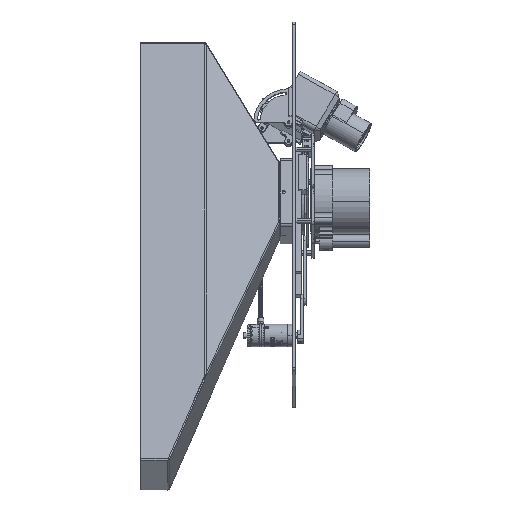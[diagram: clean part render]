
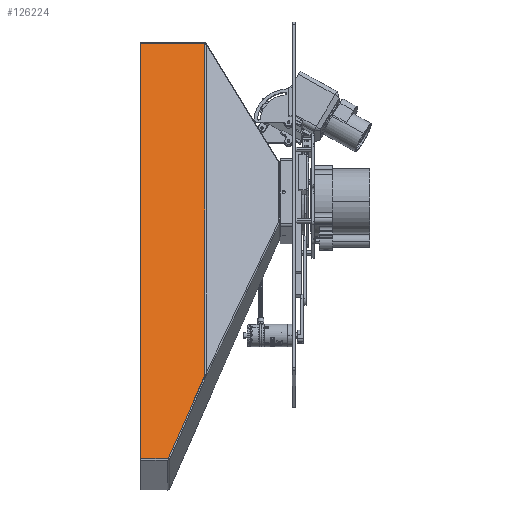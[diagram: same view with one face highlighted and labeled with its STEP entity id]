
A CAD part, left-side view. The second image highlights one B-rep face of the part: STEP entity #126224.
In plain terms, the highlighted planar face has unit normal (-0.964, 0, 0.267) as drawn and (0, 0, 1) by its records, which use the part's own axes.
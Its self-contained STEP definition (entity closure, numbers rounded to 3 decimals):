
#124347=DIRECTION('',(-0.92,0.391,0.));
#124348=VECTOR('',#124347,96.027);
#124349=CARTESIAN_POINT('',(89.298,82.068,1.5));
#124350=LINE('',#124349,#124348);
#124351=DIRECTION('',(0.,1.,0.));
#124352=VECTOR('',#124351,29.007);
#124353=CARTESIAN_POINT('',(0.,120.993,1.5));
#124354=LINE('',#124353,#124352);
#124355=DIRECTION('',(1.,0.,0.));
#124356=VECTOR('',#124355,372.767);
#124357=CARTESIAN_POINT('',(92.222,80.466,1.5));
#124358=LINE('',#124357,#124356);
#124383=DIRECTION('',(-0.033,-0.999,0.));
#124384=VECTOR('',#124383,0.337);
#124385=CARTESIAN_POINT('',(465.,80.803,1.5));
#124386=LINE('',#124385,#124384);
#124395=DIRECTION('',(0.,1.,0.));
#124396=VECTOR('',#124395,69.197);
#124397=CARTESIAN_POINT('',(465.,80.803,1.5));
#124398=LINE('',#124397,#124396);
#124407=DIRECTION('',(1.,0.,0.));
#124408=VECTOR('',#124407,465.);
#124409=CARTESIAN_POINT('',(0.,150.,1.5));
#124410=LINE('',#124409,#124408);
#124423=CARTESIAN_POINT('',(1.5,120.993,1.5));
#124424=DIRECTION('',(0.,0.,1.));
#124425=DIRECTION('',(-1.,0.,0.));
#124426=AXIS2_PLACEMENT_3D('',#124423,#124424,#124425);
#124441=CARTESIAN_POINT('',(82.738,66.627,1.5));
#124442=DIRECTION('',(0.,0.,1.));
#124443=DIRECTION('',(0.565,0.825,0.));
#124444=AXIS2_PLACEMENT_3D('',#124441,#124442,#124443);
#125878=CARTESIAN_POINT('',(89.298,82.068,1.5));
#125879=CARTESIAN_POINT('',(0.914,119.612,1.5));
#125880=VERTEX_POINT('',#125878);
#125881=VERTEX_POINT('',#125879);
#125882=CARTESIAN_POINT('',(92.222,80.466,1.5));
#125883=VERTEX_POINT('',#125882);
#125884=CARTESIAN_POINT('',(0.,120.993,1.5));
#125885=VERTEX_POINT('',#125884);
#125888=CARTESIAN_POINT('',(0.,150.,1.5));
#125889=VERTEX_POINT('',#125888);
#125914=CARTESIAN_POINT('',(465.,80.803,1.5));
#125915=CARTESIAN_POINT('',(465.,150.,1.5));
#125916=VERTEX_POINT('',#125914);
#125917=VERTEX_POINT('',#125915);
#125918=CARTESIAN_POINT('',(464.989,80.466,1.5));
#125919=VERTEX_POINT('',#125918);
#126201=CARTESIAN_POINT('',(0.,0.,1.5));
#126202=DIRECTION('',(0.,0.,1.));
#126203=DIRECTION('',(1.,0.,0.));
#126204=AXIS2_PLACEMENT_3D('',#126201,#126202,#126203);
#126205=PLANE('',#126204);
#126207=ORIENTED_EDGE('',*,*,#126206,.F.);
#126209=ORIENTED_EDGE('',*,*,#126208,.T.);
#126211=ORIENTED_EDGE('',*,*,#126210,.T.);
#126213=ORIENTED_EDGE('',*,*,#126212,.F.);
#126215=ORIENTED_EDGE('',*,*,#126214,.T.);
#126217=ORIENTED_EDGE('',*,*,#126216,.T.);
#126219=ORIENTED_EDGE('',*,*,#126218,.F.);
#126221=ORIENTED_EDGE('',*,*,#126220,.T.);
#126222=EDGE_LOOP('',(#126207,#126209,#126211,#126213,#126215,#126217,#126219,
#126221));
#126223=FACE_OUTER_BOUND('',#126222,.F.);
#126224=ADVANCED_FACE('',(#126223),#126205,.T.);
#124427=CIRCLE('',#124426,1.5);
#124445=CIRCLE('',#124444,16.776);
#126206=EDGE_CURVE('',#125883,#125919,#124358,.T.);
#126208=EDGE_CURVE('',#125883,#125880,#124445,.T.);
#126210=EDGE_CURVE('',#125880,#125881,#124350,.T.);
#126212=EDGE_CURVE('',#125885,#125881,#124427,.T.);
#126214=EDGE_CURVE('',#125885,#125889,#124354,.T.);
#126216=EDGE_CURVE('',#125889,#125917,#124410,.T.);
#126218=EDGE_CURVE('',#125916,#125917,#124398,.T.);
#126220=EDGE_CURVE('',#125916,#125919,#124386,.T.);
